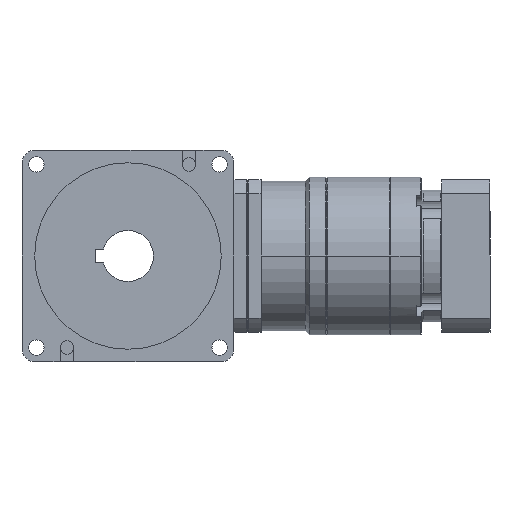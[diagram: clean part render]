
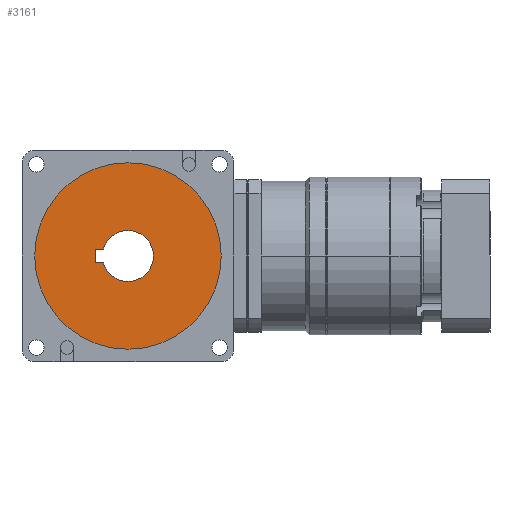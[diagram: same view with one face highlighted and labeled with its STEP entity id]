
A CAD part, left-side view. The second image highlights one B-rep face of the part: STEP entity #3161.
In plain terms, the highlighted planar face has unit normal (-1, 0, 0).
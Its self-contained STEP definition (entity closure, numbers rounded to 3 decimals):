
#66 = VECTOR ( 'NONE', #11870, 1000. ) ;
#377 = AXIS2_PLACEMENT_3D ( 'NONE', #14633, #9811, #8748 ) ;
#617 = CIRCLE ( 'NONE', #377, 15. ) ;
#680 = CARTESIAN_POINT ( 'NONE',  ( -43., 0., 15. ) ) ;
#812 = VERTEX_POINT ( 'NONE', #13414 ) ;
#1012 = ORIENTED_EDGE ( 'NONE', *, *, #1843, .T. ) ;
#1542 = FACE_BOUND ( 'NONE', #3464, .T. ) ;
#1551 = LINE ( 'NONE', #13179, #66 ) ;
#1843 = EDGE_CURVE ( 'NONE', #6492, #9349, #4441, .T. ) ;
#1876 = AXIS2_PLACEMENT_3D ( 'NONE', #2843, #9883, #11098 ) ;
#1947 = CIRCLE ( 'NONE', #10264, 55. ) ;
#2656 = CARTESIAN_POINT ( 'NONE',  ( -43., 0., 0. ) ) ;
#2713 = CARTESIAN_POINT ( 'NONE',  ( -43., 0., 0. ) ) ;
#2730 = EDGE_CURVE ( 'NONE', #6621, #812, #15068, .T. ) ;
#2822 = ORIENTED_EDGE ( 'NONE', *, *, #11104, .T. ) ;
#2843 = CARTESIAN_POINT ( 'NONE',  ( -43., 0., 0. ) ) ;
#3073 = EDGE_CURVE ( 'NONE', #11233, #11460, #617, .T. ) ;
#3146 = ORIENTED_EDGE ( 'NONE', *, *, #11005, .T. ) ;
#3161 = ADVANCED_FACE ( 'NONE', ( #1542, #13320 ), #5375, .T. ) ;
#3464 = EDGE_LOOP ( 'NONE', ( #11964, #3146, #13487, #12448, #6513, #13380 ) ) ;
#4441 = CIRCLE ( 'NONE', #12984, 55. ) ;
#5375 = PLANE ( 'NONE',  #1876 ) ;
#6048 = CARTESIAN_POINT ( 'NONE',  ( -43., 19.3, 0. ) ) ;
#6068 = CARTESIAN_POINT ( 'NONE',  ( -43., 19.3, 4. ) ) ;
#6406 = DIRECTION ( 'NONE',  ( 0., 0., 1. ) ) ;
#6492 = VERTEX_POINT ( 'NONE', #8097 ) ;
#6513 = ORIENTED_EDGE ( 'NONE', *, *, #3073, .F. ) ;
#6559 = CARTESIAN_POINT ( 'NONE',  ( -43., 0., 0. ) ) ;
#6621 = VERTEX_POINT ( 'NONE', #7537 ) ;
#6705 = DIRECTION ( 'NONE',  ( -1., 0., 0. ) ) ;
#7077 = EDGE_CURVE ( 'NONE', #11460, #7423, #1551, .T. ) ;
#7307 = DIRECTION ( 'NONE',  ( -1., 0., 0. ) ) ;
#7423 = VERTEX_POINT ( 'NONE', #6068 ) ;
#7497 = CARTESIAN_POINT ( 'NONE',  ( -43., 0., 0. ) ) ;
#7537 = CARTESIAN_POINT ( 'NONE',  ( -43., 14.457, -4. ) ) ;
#8097 = CARTESIAN_POINT ( 'NONE',  ( -43., 0., -55. ) ) ;
#8129 = DIRECTION ( 'NONE',  ( 0., 1., 0. ) ) ;
#8414 = LINE ( 'NONE', #6048, #14627 ) ;
#8489 = CARTESIAN_POINT ( 'NONE',  ( -43., 14.457, 4. ) ) ;
#8748 = DIRECTION ( 'NONE',  ( 0., 0., 1. ) ) ;
#9349 = VERTEX_POINT ( 'NONE', #9608 ) ;
#9490 = EDGE_LOOP ( 'NONE', ( #2822, #1012 ) ) ;
#9571 = LINE ( 'NONE', #13929, #13175 ) ;
#9608 = CARTESIAN_POINT ( 'NONE',  ( -43., 0., 55. ) ) ;
#9811 = DIRECTION ( 'NONE',  ( -1., 0., 0. ) ) ;
#9883 = DIRECTION ( 'NONE',  ( -1., 0., 0. ) ) ;
#10264 = AXIS2_PLACEMENT_3D ( 'NONE', #7497, #12150, #14230 ) ;
#10558 = CARTESIAN_POINT ( 'NONE',  ( -43., 19.3, -4. ) ) ;
#11005 = EDGE_CURVE ( 'NONE', #6621, #12431, #9571, .T. ) ;
#11047 = CIRCLE ( 'NONE', #13495, 15. ) ;
#11098 = DIRECTION ( 'NONE',  ( 0., 0., 1. ) ) ;
#11104 = EDGE_CURVE ( 'NONE', #9349, #6492, #1947, .T. ) ;
#11233 = VERTEX_POINT ( 'NONE', #680 ) ;
#11460 = VERTEX_POINT ( 'NONE', #8489 ) ;
#11870 = DIRECTION ( 'NONE',  ( 0., 1., 0. ) ) ;
#11964 = ORIENTED_EDGE ( 'NONE', *, *, #2730, .F. ) ;
#11972 = DIRECTION ( 'NONE',  ( 0., 0., 1. ) ) ;
#12150 = DIRECTION ( 'NONE',  ( -1., 0., 0. ) ) ;
#12431 = VERTEX_POINT ( 'NONE', #10558 ) ;
#12448 = ORIENTED_EDGE ( 'NONE', *, *, #7077, .F. ) ;
#12984 = AXIS2_PLACEMENT_3D ( 'NONE', #2713, #7307, #14427 ) ;
#13170 = EDGE_CURVE ( 'NONE', #812, #11233, #11047, .T. ) ;
#13175 = VECTOR ( 'NONE', #8129, 1000. ) ;
#13179 = CARTESIAN_POINT ( 'NONE',  ( -43., 0., 4. ) ) ;
#13320 = FACE_OUTER_BOUND ( 'NONE', #9490, .T. ) ;
#13358 = AXIS2_PLACEMENT_3D ( 'NONE', #2656, #14281, #11972 ) ;
#13380 = ORIENTED_EDGE ( 'NONE', *, *, #13170, .F. ) ;
#13414 = CARTESIAN_POINT ( 'NONE',  ( -43., 0., -15. ) ) ;
#13487 = ORIENTED_EDGE ( 'NONE', *, *, #13710, .T. ) ;
#13495 = AXIS2_PLACEMENT_3D ( 'NONE', #6559, #6705, #6406 ) ;
#13710 = EDGE_CURVE ( 'NONE', #12431, #7423, #8414, .T. ) ;
#13929 = CARTESIAN_POINT ( 'NONE',  ( -43., 0., -4. ) ) ;
#13934 = DIRECTION ( 'NONE',  ( 0., 0., 1. ) ) ;
#14230 = DIRECTION ( 'NONE',  ( 0., 0., 1. ) ) ;
#14281 = DIRECTION ( 'NONE',  ( -1., 0., 0. ) ) ;
#14427 = DIRECTION ( 'NONE',  ( 0., 0., 1. ) ) ;
#14627 = VECTOR ( 'NONE', #13934, 1000. ) ;
#14633 = CARTESIAN_POINT ( 'NONE',  ( -43., 0., 0. ) ) ;
#15068 = CIRCLE ( 'NONE', #13358, 15. ) ;
